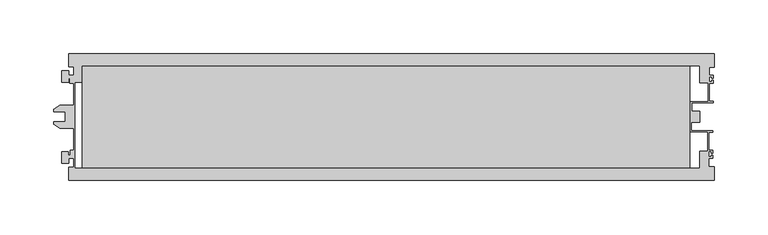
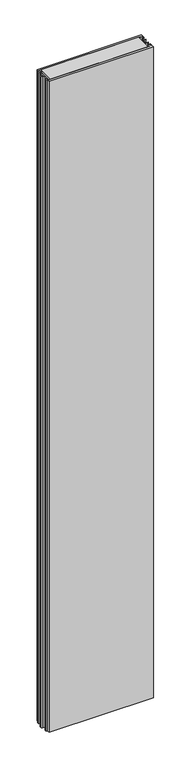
"""IFC4 building model written with IfcOpenShell, lengths in millimetres: plate geometry, Walls_External-Walls_Danpal_Danpatherm-K12 : Walls_External-Walls_Danpal_Danpatherm-K12."""

from ifc_helpers import new_model, si_unit, frame, origin, place, context, project, spatial, polyline, outline, extrude, source, transform, mapped, element, save


def plate_27379fa9(model_context):
    return source(origin(), model_context, "Body", "SweptSolid", [
        extrude(outline(polyline([(274.6184743, -11.5), (274.6184743, -105.9), (-289.8606362, -105.9), (-289.8606362, -11.5), (274.6184743, -11.5)])), frame((0.0, 0.0, -29.0), z_axis=(0.0, 0.0, 1.0), x_axis=(1.0, 0.0, 0.0)), (0.0, 0.0, 1.0), 3952.2118076),
        extrude(outline(polyline([(-302.5, 0.0), (297.5, 0.0), (297.5, -12.326688), (292.9651236, -12.3834733), (292.9652129, -19.8250352), (296.5652394, -19.8250352), (296.5652394, -22.6250436), (295.2652287, -22.6250436), (295.2652287, -21.1250724), (292.8652849, -21.1250724), (292.8652849, -26.1250508), (295.2652706, -26.1250508), (295.2652706, -24.6250436), (296.565297, -24.6250436), (296.565297, -27.4250712), (292.9653041, -27.4250712), (292.9655056, -44.2251011), (296.5655022, -44.2251011), (296.5655022, -45.5250406), (276.8654904, -45.5250406), (276.8654904, -53.3499188), (283.9999848, -53.3499188), (283.9999848, -63.5500812), (276.2999848, -63.5500812), (276.2999848, -71.3749594), (295.9999965, -71.3749594), (295.9999965, -72.6749349), (292.4, -72.6749349), (292.4, -89.4749648), (295.9999965, -89.4749648), (295.9999965, -92.2749648), (294.6999965, -92.2749648), (294.6999965, -90.7749648), (292.3, -90.7749648), (292.3, -95.7749648), (294.6999965, -95.7749648), (294.6999965, -94.2749648), (295.9999965, -94.2749648), (295.9999965, -97.0749648), (292.4, -97.0749648), (292.4, -104.9), (297.5, -104.9), (297.5, -117.4), (-302.5, -117.4), (-302.5, -105.4), (-297.4, -105.4), (-297.4, -97.0749648), (-302.4526316, -97.0749648), (-302.4526316, -101.6302279), (-308.9, -101.6302279), (-308.9, -91.0381227), (-302.5127555, -91.0381227), (-302.5127555, -94.0775963), (-300.9999965, -94.0775963), (-300.9999965, -89.4749648), (-297.4, -89.4749648), (-297.4, -69.2982521), (-310.7714928, -69.2982521), (-316.1600052, -65.3713202), (-316.1600052, -63.1232521), (-305.3266718, -63.1232521), (-305.3266718, -53.8499188), (-316.1600052, -53.8499188), (-316.1600052, -51.6018507), (-310.7714928, -47.6749188), (-297.7, -47.6749188), (-297.7, -27.4235008), (-301.407343, -27.4235008), (-301.407343, -22.8208692), (-302.5, -22.8208692), (-302.5, -26.3618773), (-308.8872445, -26.3618773), (-308.8872445, -15.7697721), (-302.439876, -15.7697721), (-302.439876, -19.8235008), (-297.8073464, -19.8235008), (-297.8073464, -12.0), (-302.5, -12.0), (-302.5, 0.0)]), holes=[polyline([(283.6999848, -11.5), (-289.8606362, -11.5), (-289.8606362, -27.0), (-296.4452172, -27.0), (-296.4452172, -105.9), (283.4884259, -105.9), (283.5512195, -89.9), (291.0, -89.9), (291.0, -72.9749349), (274.6184743, -72.9749349), (274.6184743, -44.143617), (291.5655046, -44.143617), (291.5655046, -27.4021751), (283.66868, -27.5010583), (283.6999848, -11.5)])]), frame((0.0, 0.0, -29.0), z_axis=(0.0, 0.0, 1.0), x_axis=(1.0, 0.0, 0.0)), (0.0, 0.0, 1.0), 3952.2118076),
    ])


if __name__ == "__main__":
    model = new_model("IFC4")
    model_context = context("Model", 3, world=origin())
    ifc_project = project(units=[si_unit("LENGTHUNIT", "METRE", prefix="MILLI")], contexts=[model_context])
    site = spatial("IfcSite", under=ifc_project)
    building = spatial("IfcBuilding", under=site)
    placement = place(None, origin())
    plate_shape = plate_27379fa9(model_context)
    element("IfcPlate", 1, ObjectType="Walls_External-Walls_Danpal_Danpatherm-K12 : Walls_External-Walls_Danpal_Danpatherm-K12", at=placement, inside=building, context=model_context, shape_type="MappedRepresentation", body=[
        mapped(plate_shape, transform((0.0, 0.0, 0.0), x_axis=(1.0, 0.0, 0.0), y_axis=(0.0, 1.0, 0.0), z_axis=(0.0, 0.0, 1.0))),
    ])
    save(model, "model.ifc")
